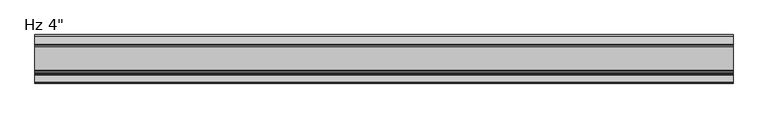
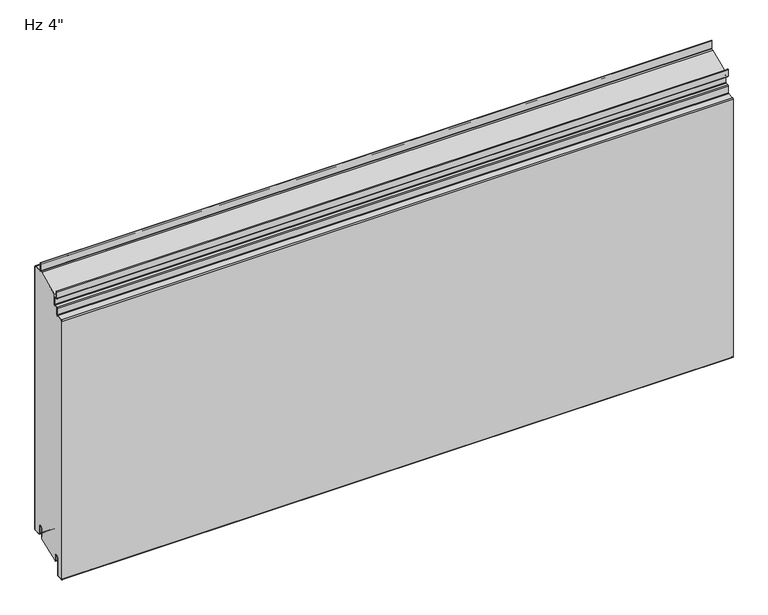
"""IFC4 building model written with IfcOpenShell, lengths in millimetres: plate geometry."""

from ifc_helpers import new_model, si_unit, point, frame, frame_2d, origin, place, context, project, spatial, polyline, circle_curve, ellipse_curve, trimmed, segment, composite_curve, outline, extrude, source, transform, mapped, element, save
from ifc_brep_helpers import plane_surface, cylinder_surface, revolved_surface, extruded_surface, advanced_brep


def plate_cdfc6812(model_context):
    return source(origin(), model_context, "Body", "SolidModel", [
        extrude(outline(composite_curve([segment(trimmed(circle_curve(frame_2d((-21.43125, 19.05)), 4.96875), [point((-16.4625, 19.05))], [point((-26.4, 19.05))], True, "CARTESIAN"), True, "CONTINUOUS"), segment(polyline([(-26.4, 19.05), (-26.4, -3.1323422), (-74.6157227, -23.01875), (-76.2, -23.01875), (-76.2, -13.5080174), (-76.99375, -13.5080174), (-76.7875, -11.9205174)]), True, "CONTINUOUS"), segment(trimmed(circle_curve(frame_2d((-81.75625, -11.9205174)), 4.96875), [point((-76.7875, -11.9205174))], [point((-86.725, -11.9205174))], True, "CARTESIAN"), True, "CONTINUOUS"), segment(polyline([(-86.725, -11.9205174), (-86.725, -50.1038221)]), True, "CONTINUOUS"), segment(trimmed(circle_curve(frame_2d((-88.10625, -50.1038221)), 1.38125), [point((-86.725, -50.1038221))], [point((-88.033961, -51.4831791))], False, "CARTESIAN"), True, "CONTINUOUS"), segment(polyline([(-88.033961, -51.4831791), (-99.146461, -52.0655606)]), True, "CONTINUOUS"), segment(trimmed(circle_curve(frame_2d((-99.21875, -50.6862035)), 1.38125), [point((-99.146461, -52.0655606))], [point((-100.6, -50.6862035))], False, "CARTESIAN"), True, "CONTINUOUS"), segment(polyline([(-100.6, -50.6862035), (-100.6, 541.4447607)]), True, "CONTINUOUS"), segment(trimmed(circle_curve(frame_2d((-99.21875, 541.4447607)), 1.38125), [point((-100.6, 541.4447607))], [point((-99.291039, 542.8241177))], False, "CARTESIAN"), True, "CONTINUOUS"), segment(polyline([(-99.291039, 542.8241177), (-85.5895807, 543.5421807)]), True, "CONTINUOUS"), segment(trimmed(circle_curve(frame_2d((-85.725, 546.1261347)), 2.5875), [point((-85.5895807, 543.5421807))], [point((-83.1375, 546.1261347))], True, "CARTESIAN"), True, "CONTINUOUS"), segment(polyline([(-83.1375, 546.1261347), (-83.1375, 560.2824411)]), True, "CONTINUOUS"), segment(trimmed(circle_curve(frame_2d((-81.75625, 560.2824411)), 1.38125), [point((-83.1375, 560.2824411))], [point((-81.828539, 561.6617981))], False, "CARTESIAN"), True, "CONTINUOUS"), segment(polyline([(-81.828539, 561.6617981), (-76.0645807, 561.9638744)]), True, "CONTINUOUS"), segment(trimmed(circle_curve(frame_2d((-76.2, 564.5478283)), 2.5875), [point((-76.0645807, 561.9638744))], [point((-73.6125, 564.5478283))], True, "CARTESIAN"), True, "CONTINUOUS"), segment(polyline([(-73.6125, 564.5478283), (-73.6125, 586.9892934), (-24.9057308, 607.80625), (-2.38125, 607.80625)]), True, "CONTINUOUS"), segment(trimmed(circle_curve(frame_2d((-2.38125, 606.425)), 1.38125), [point((-2.38125, 607.80625))], [point((-1.0, 606.425))], False, "CARTESIAN"), True, "CONTINUOUS"), segment(polyline([(-1.0, 606.425), (-1.0, 3.175)]), True, "CONTINUOUS"), segment(trimmed(circle_curve(frame_2d((-2.38125, 3.175)), 1.38125), [point((-1.0, 3.175))], [point((-2.38125, 1.79375))], False, "CARTESIAN"), True, "CONTINUOUS"), segment(polyline([(-2.38125, 1.79375), (-15.08125, 1.79375)]), True, "CONTINUOUS"), segment(trimmed(circle_curve(frame_2d((-15.08125, 3.175)), 1.38125), [point((-15.08125, 1.79375))], [point((-16.4625, 3.175))], False, "CARTESIAN"), True, "CONTINUOUS"), segment(polyline([(-16.4625, 3.175), (-16.4625, 19.05)]), True, "CONTINUOUS")], self_intersect=False)), frame((-730.0, 0.0, 0.0), z_axis=(1.0, 0.0, 0.0), x_axis=(0.0, 1.0, 0.0)), (0.0, 0.0, 1.0), 1460.0),
        extrude(outline(composite_curve([segment(polyline([(-25.4, 0.79375), (-26.4, 0.79375), (-26.4, 19.05)]), True, "CONTINUOUS"), segment(trimmed(circle_curve(frame_2d((-21.43125, 19.05)), 4.96875), [point((-26.4, 19.05))], [point((-16.4625, 19.05))], False, "CARTESIAN"), True, "CONTINUOUS"), segment(polyline([(-16.4625, 19.05), (-16.4625, 3.175)]), True, "CONTINUOUS"), segment(trimmed(circle_curve(frame_2d((-15.08125, 3.175)), 1.38125), [point((-16.4625, 3.175))], [point((-15.08125, 1.79375))], True, "CARTESIAN"), True, "CONTINUOUS"), segment(polyline([(-15.08125, 1.79375), (-2.38125, 1.79375)]), True, "CONTINUOUS"), segment(trimmed(circle_curve(frame_2d((-2.38125, 3.175)), 1.38125), [point((-2.38125, 1.79375))], [point((-1.0, 3.175))], True, "CARTESIAN"), True, "CONTINUOUS"), segment(polyline([(-1.0, 3.175), (-1.0, 606.425)]), True, "CONTINUOUS"), segment(trimmed(circle_curve(frame_2d((-2.38125, 606.425)), 1.38125), [point((-1.0, 606.425))], [point((-2.38125, 607.80625))], True, "CARTESIAN"), True, "CONTINUOUS"), segment(polyline([(-2.38125, 607.80625), (-19.446875, 607.80625)]), True, "CONTINUOUS"), segment(trimmed(circle_curve(frame_2d((-19.446875, 610.39375)), 2.5875), [point((-19.446875, 607.80625))], [point((-22.034375, 610.39375))], False, "CARTESIAN"), True, "CONTINUOUS"), segment(polyline([(-22.034375, 610.39375), (-22.034375, 627.85625), (-21.034375, 627.85625), (-21.034375, 610.39375)]), True, "CONTINUOUS"), segment(trimmed(circle_curve(frame_2d((-19.446875, 610.39375)), 1.5875), [point((-21.034375, 610.39375))], [point((-19.446875, 608.80625))], True, "CARTESIAN"), True, "CONTINUOUS"), segment(polyline([(-19.446875, 608.80625), (-2.38125, 608.80625)]), True, "CONTINUOUS"), segment(trimmed(circle_curve(frame_2d((-2.38125, 606.425)), 2.38125), [point((-2.38125, 608.80625))], [point((0.0, 606.425))], False, "CARTESIAN"), True, "CONTINUOUS"), segment(polyline([(0.0, 606.425), (0.0, 3.175)]), True, "CONTINUOUS"), segment(trimmed(circle_curve(frame_2d((-2.38125, 3.175)), 2.38125), [point((0.0, 3.175))], [point((-2.38125, 0.79375))], False, "CARTESIAN"), True, "CONTINUOUS"), segment(polyline([(-2.38125, 0.79375), (-15.08125, 0.79375)]), True, "CONTINUOUS"), segment(trimmed(circle_curve(frame_2d((-15.08125, 3.175)), 2.38125), [point((-15.08125, 0.79375))], [point((-17.4625, 3.175))], False, "CARTESIAN"), True, "CONTINUOUS"), segment(polyline([(-17.4625, 3.175), (-17.4625, 19.05)]), True, "CONTINUOUS"), segment(trimmed(circle_curve(frame_2d((-21.43125, 19.05)), 3.96875), [point((-17.4625, 19.05))], [point((-25.4, 19.05))], True, "CARTESIAN"), True, "CONTINUOUS"), segment(polyline([(-25.4, 19.05), (-25.4, 0.79375)]), True, "CONTINUOUS")], self_intersect=False)), frame((-730.0, 0.0, 0.0), z_axis=(1.0, 0.0, 0.0), x_axis=(0.0, 1.0, 0.0)), (0.0, 0.0, 1.0), 1460.0),
        advanced_brep(
        [(-730.0, -76.2, -23.2314549), (-730.0, -77.7875, -23.2314549), (-730.0, -77.7875, -11.9205174), (-730.0, -85.725, -11.9205174), (-730.0, -85.725, -50.1038221), (-730.0, -87.981625, -52.4818086), (-730.0, -99.094125, -53.0641901), (-730.0, -101.6, -50.6862035), (-730.0, -101.6, 541.4447607), (-730.0, -99.343375, 543.8227473), (-730.0, -85.6419167, 544.5408103), (-730.0, -84.1375, 546.1261347), (-730.0, -84.1375, 560.2824411), (-730.0, -81.880875, 562.6604276), (-730.0, -76.1169167, 562.9625039), (-730.0, -74.6125, 564.5478283), (-730.0, -74.6125, 579.4232326), (-730.0, -76.2, 581.0107326), (-730.0, -80.3671875, 581.0107326), (-730.0, -82.7484375, 583.3919826), (-730.0, -82.7484375, 597.8836032), (-730.0, -80.9546875, 597.8836032), (-730.0, -80.9546875, 588.1544826), (-730.0, -81.7484375, 588.1544826), (-730.0, -81.7484375, 583.3919826), (-730.0, -80.3671875, 582.0107326), (-730.0, -76.2, 582.0107326), (-730.0, -73.6125, 579.4232326), (-730.0, -73.6125, 564.5478283), (-730.0, -76.0645807, 561.9638744), (-730.0, -81.828539, 561.6617981), (-730.0, -83.1375, 560.2824411), (-730.0, -83.1375, 546.1261347), (-730.0, -85.5895807, 543.5421807), (-730.0, -99.291039, 542.8241177), (-730.0, -100.6, 541.4447607), (-730.0, -100.6, -50.6862035), (-730.0, -99.146461, -52.0655606), (-730.0, -88.033961, -51.4831791), (-730.0, -86.725, -50.1038221), (-730.0, -86.725, -11.9205174), (-730.0, -76.7875, -11.9205174), (-730.0, -76.99375, -13.5080174), (-730.0, -76.2, -13.5080174), (730.0, -76.2, -23.2314549), (730.0, -76.2, -13.5080174), (730.0, -76.99375, -13.5080174), (730.0, -76.7875, -11.9205174), (730.0, -86.725, -11.9205174), (730.0, -86.725, -50.1038221), (730.0, -88.033961, -51.4831791), (730.0, -99.146461, -52.0655606), (730.0, -100.6, -50.6862035), (730.0, -100.6, 541.4447607), (730.0, -99.291039, 542.8241177), (730.0, -85.5895807, 543.5421807), (730.0, -83.1375, 546.1261347), (730.0, -83.1375, 560.2824411), (730.0, -81.828539, 561.6617981), (730.0, -76.0645807, 561.9638744), (730.0, -73.6125, 564.5478283), (730.0, -73.6125, 579.4232326), (730.0, -76.2, 582.0107326), (730.0, -80.3671875, 582.0107326), (730.0, -81.7484375, 583.3919826), (730.0, -81.7484375, 588.1544826), (730.0, -80.9546875, 588.1544826), (730.0, -80.9546875, 597.8836032), (730.0, -82.7484375, 597.8836032), (730.0, -82.7484375, 583.3919826), (730.0, -80.3671875, 581.0107326), (730.0, -76.2, 581.0107326), (730.0, -74.6125, 579.4232326), (730.0, -74.6125, 564.5478283), (730.0, -76.1169167, 562.9625039), (730.0, -81.880875, 562.6604276), (730.0, -84.1375, 560.2824411), (730.0, -84.1375, 546.1261347), (730.0, -85.6419167, 544.5408103), (730.0, -99.343375, 543.8227473), (730.0, -101.6, 541.4447607), (730.0, -101.6, -50.6862035), (730.0, -99.094125, -53.0641901), (730.0, -87.981625, -52.4818086), (730.0, -85.725, -50.1038221), (730.0, -85.725, -11.9205174), (730.0, -77.7875, -11.9205174), (730.0, -77.7875, -23.2314549)],
        [
            (0, 1, circle_curve(frame((-730.0, -76.99375, -23.2314549), z_axis=(-1.0, 0.0, 0.0), x_axis=(0.0, 0.0, 1.0)), 0.79375)),
            (1, 2),
            (2, 3, circle_curve(frame((-730.0, -81.75625, -11.9205174), z_axis=(1.0, 0.0, 0.0), x_axis=(0.0, 0.0, 1.0)), 3.96875)),
            (3, 4),
            (4, 5, circle_curve(frame((-730.0, -88.10625, -50.1038221), z_axis=(-1.0, 0.0, 0.0), x_axis=(0.0, 0.0, 1.0)), 2.38125)),
            (5, 6),
            (6, 7, circle_curve(frame((-730.0, -99.21875, -50.6862035), z_axis=(-1.0, 0.0, 0.0), x_axis=(0.0, 0.0, 1.0)), 2.38125)),
            (7, 8),
            (8, 9, circle_curve(frame((-730.0, -99.21875, 541.4447607), z_axis=(-1.0, 0.0, 0.0), x_axis=(0.0, 0.0, 1.0)), 2.38125)),
            (9, 10),
            (10, 11, circle_curve(frame((-730.0, -85.725, 546.1261347), z_axis=(1.0, 0.0, 0.0), x_axis=(0.0, 0.0, 1.0)), 1.5875)),
            (11, 12),
            (12, 13, circle_curve(frame((-730.0, -81.75625, 560.2824411), z_axis=(-1.0, 0.0, 0.0), x_axis=(0.0, 0.0, 1.0)), 2.38125)),
            (13, 14),
            (14, 15, circle_curve(frame((-730.0, -76.2, 564.5478283), z_axis=(1.0, 0.0, 0.0), x_axis=(0.0, 0.0, 1.0)), 1.5875)),
            (15, 16),
            (16, 17, circle_curve(frame((-730.0, -76.2, 579.4232326), z_axis=(1.0, 0.0, 0.0), x_axis=(0.0, 0.0, 1.0)), 1.5875)),
            (17, 18),
            (18, 19, circle_curve(frame((-730.0, -80.3671875, 583.3919826), z_axis=(-1.0, 0.0, 0.0), x_axis=(0.0, 0.0, 1.0)), 2.38125)),
            (19, 20),
            (20, 21, ellipse_curve(frame((-730.0, -81.8515625, 597.8836032), z_axis=(-1.0, 0.0, 0.0), x_axis=(0.0, 1.0, 0.0)), 0.896875, 0.7852275)),
            (21, 22),
            (22, 23),
            (23, 24),
            (24, 25, circle_curve(frame((-730.0, -80.3671875, 583.3919826), z_axis=(1.0, 0.0, 0.0), x_axis=(0.0, 0.0, 1.0)), 1.38125)),
            (25, 26),
            (26, 27, circle_curve(frame((-730.0, -76.2, 579.4232326), z_axis=(-1.0, 0.0, 0.0), x_axis=(0.0, 0.0, 1.0)), 2.5875)),
            (27, 28),
            (28, 29, circle_curve(frame((-730.0, -76.2, 564.5478283), z_axis=(-1.0, 0.0, 0.0), x_axis=(0.0, 0.0, 1.0)), 2.5875)),
            (29, 30),
            (30, 31, circle_curve(frame((-730.0, -81.75625, 560.2824411), z_axis=(1.0, 0.0, 0.0), x_axis=(0.0, 0.0, 1.0)), 1.38125)),
            (31, 32),
            (32, 33, circle_curve(frame((-730.0, -85.725, 546.1261347), z_axis=(-1.0, 0.0, 0.0), x_axis=(0.0, 0.0, 1.0)), 2.5875)),
            (33, 34),
            (34, 35, circle_curve(frame((-730.0, -99.21875, 541.4447607), z_axis=(1.0, 0.0, 0.0), x_axis=(0.0, 0.0, 1.0)), 1.38125)),
            (35, 36),
            (36, 37, circle_curve(frame((-730.0, -99.21875, -50.6862035), z_axis=(1.0, 0.0, 0.0), x_axis=(0.0, 0.0, 1.0)), 1.38125)),
            (37, 38),
            (38, 39, circle_curve(frame((-730.0, -88.10625, -50.1038221), z_axis=(1.0, 0.0, 0.0), x_axis=(0.0, 0.0, 1.0)), 1.38125)),
            (39, 40),
            (40, 41, circle_curve(frame((-730.0, -81.75625, -11.9205174), z_axis=(-1.0, 0.0, 0.0), x_axis=(0.0, 0.0, 1.0)), 4.96875)),
            (41, 42),
            (42, 43),
            (43, 0),
            (44, 45),
            (45, 46),
            (46, 47),
            (47, 48, circle_curve(frame((730.0, -81.75625, -11.9205174), z_axis=(1.0, 0.0, 0.0), x_axis=(0.0, 0.0, 1.0)), 4.96875)),
            (48, 49),
            (49, 50, circle_curve(frame((730.0, -88.10625, -50.1038221), z_axis=(-1.0, 0.0, 0.0), x_axis=(0.0, 0.0, 1.0)), 1.38125)),
            (50, 51),
            (51, 52, circle_curve(frame((730.0, -99.21875, -50.6862035), z_axis=(-1.0, 0.0, 0.0), x_axis=(0.0, 0.0, 1.0)), 1.38125)),
            (52, 53),
            (53, 54, circle_curve(frame((730.0, -99.21875, 541.4447607), z_axis=(-1.0, 0.0, 0.0), x_axis=(0.0, 0.0, 1.0)), 1.38125)),
            (54, 55),
            (55, 56, circle_curve(frame((730.0, -85.725, 546.1261347), z_axis=(1.0, 0.0, 0.0), x_axis=(0.0, 0.0, 1.0)), 2.5875)),
            (56, 57),
            (57, 58, circle_curve(frame((730.0, -81.75625, 560.2824411), z_axis=(-1.0, 0.0, 0.0), x_axis=(0.0, 0.0, 1.0)), 1.38125)),
            (58, 59),
            (59, 60, circle_curve(frame((730.0, -76.2, 564.5478283), z_axis=(1.0, 0.0, 0.0), x_axis=(0.0, 0.0, 1.0)), 2.5875)),
            (60, 61),
            (61, 62, circle_curve(frame((730.0, -76.2, 579.4232326), z_axis=(1.0, 0.0, 0.0), x_axis=(0.0, 0.0, 1.0)), 2.5875)),
            (62, 63),
            (63, 64, circle_curve(frame((730.0, -80.3671875, 583.3919826), z_axis=(-1.0, 0.0, 0.0), x_axis=(0.0, 0.0, 1.0)), 1.38125)),
            (64, 65),
            (65, 66),
            (66, 67),
            (67, 68, ellipse_curve(frame((730.0, -81.8515625, 597.8836032), z_axis=(1.0, 0.0, 0.0), x_axis=(0.0, 1.0, 0.0)), 0.896875, 0.7852275)),
            (68, 69),
            (69, 70, circle_curve(frame((730.0, -80.3671875, 583.3919826), z_axis=(1.0, 0.0, 0.0), x_axis=(0.0, 0.0, 1.0)), 2.38125)),
            (70, 71),
            (71, 72, circle_curve(frame((730.0, -76.2, 579.4232326), z_axis=(-1.0, 0.0, 0.0), x_axis=(0.0, 0.0, 1.0)), 1.5875)),
            (72, 73),
            (73, 74, circle_curve(frame((730.0, -76.2, 564.5478283), z_axis=(-1.0, 0.0, 0.0), x_axis=(0.0, 0.0, 1.0)), 1.5875)),
            (74, 75),
            (75, 76, circle_curve(frame((730.0, -81.75625, 560.2824411), z_axis=(1.0, 0.0, 0.0), x_axis=(0.0, 0.0, 1.0)), 2.38125)),
            (76, 77),
            (77, 78, circle_curve(frame((730.0, -85.725, 546.1261347), z_axis=(-1.0, 0.0, 0.0), x_axis=(0.0, 0.0, 1.0)), 1.5875)),
            (78, 79),
            (79, 80, circle_curve(frame((730.0, -99.21875, 541.4447607), z_axis=(1.0, 0.0, 0.0), x_axis=(0.0, 0.0, 1.0)), 2.38125)),
            (80, 81),
            (81, 82, circle_curve(frame((730.0, -99.21875, -50.6862035), z_axis=(1.0, 0.0, 0.0), x_axis=(0.0, 0.0, 1.0)), 2.38125)),
            (82, 83),
            (83, 84, circle_curve(frame((730.0, -88.10625, -50.1038221), z_axis=(1.0, 0.0, 0.0), x_axis=(0.0, 0.0, 1.0)), 2.38125)),
            (84, 85),
            (85, 86, circle_curve(frame((730.0, -81.75625, -11.9205174), z_axis=(-1.0, 0.0, 0.0), x_axis=(0.0, 0.0, 1.0)), 3.96875)),
            (86, 87),
            (87, 44, circle_curve(frame((730.0, -76.99375, -23.2314549), z_axis=(1.0, 0.0, 0.0), x_axis=(0.0, 0.0, 1.0)), 0.79375)),
            (43, 45),
            (44, 0),
            (36, 52),
            (51, 37),
            (50, 38),
            (49, 39),
            (48, 40),
            (47, 41),
            (42, 46),
            (22, 66),
            (65, 23),
            (21, 67),
            (20, 68),
            (34, 54),
            (53, 35),
            (32, 56),
            (55, 33),
            (30, 58),
            (57, 31),
            (28, 60),
            (59, 29),
            (24, 64),
            (63, 25),
            (26, 62),
            (61, 27),
            (19, 69),
            (17, 71),
            (70, 18),
            (15, 73),
            (72, 16),
            (13, 75),
            (74, 14),
            (11, 77),
            (76, 12),
            (9, 79),
            (78, 10),
            (7, 81),
            (80, 8),
            (5, 83),
            (82, 6),
            (3, 85),
            (84, 4),
            (1, 87),
            (86, 2),
        ],
        [
            plane_surface(frame((-730.0, -101.6, 304.8), z_axis=(-1.0, 0.0, 0.0), x_axis=(0.0, -1.0, 0.0))),
            plane_surface(frame((730.0, -101.6, 304.8), z_axis=(1.0, 0.0, 0.0), x_axis=(0.0, -1.0, 0.0))),
            plane_surface(frame((-730.0, -76.2, -23.2314549), z_axis=(0.0, 1.0, 0.0), x_axis=(1.0, 0.0, 0.0))),
            revolved_surface(polyline([(730.0, -99.21875, -49.304953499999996), (-730.0, -99.21875, -49.304953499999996)]), (-730.0, -99.21875, -50.6862035), (1.0, 0.0, 0.0)),
            plane_surface(frame((-730.0, -88.033961, -51.4831791), z_axis=(0.0, -0.052335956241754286, 0.9986295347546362), x_axis=(1.0, 0.0, 0.0))),
            revolved_surface(polyline([(730.0, -88.10625, -48.7225721), (-730.0, -88.10625, -48.7225721)]), (-730.0, -88.10625, -50.1038221), (1.0, 0.0, 0.0)),
            plane_surface(frame((-730.0, -86.725, -11.9205174), z_axis=(0.0, -1.0, 0.0), x_axis=(1.0, 0.0, 0.0))),
            cylinder_surface(frame((-730.0, -81.75625, -11.9205174), z_axis=(-1.0, 0.0, 0.0), x_axis=(0.0, 0.0, 1.0)), 4.96875),
            plane_surface(frame((-730.0, -76.2, -13.5080174), z_axis=(0.0, 0.0, 1.0), x_axis=(1.0, 0.0, 0.0))),
            plane_surface(frame((-730.0, -76.99375, -13.5080174), z_axis=(0.0, 0.9916655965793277, -0.12883844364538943), x_axis=(1.0, 0.0, 0.0))),
            plane_surface(frame((-730.0, -81.7484375, 588.1544826), z_axis=(0.0, 0.0, -1.0), x_axis=(1.0, 0.0, 0.0))),
            plane_surface(frame((-730.0, -80.9546875, 588.1544826), z_axis=(0.0, 1.0, 0.0), x_axis=(1.0, 0.0, 0.0))),
            extruded_surface(trimmed(ellipse_curve(frame((-730.0, -81.8515625, 597.8836032), z_axis=(1.0, 0.0, 0.0), x_axis=(0.0, 1.0, 0.0)), 0.896875, 0.7852275), [point((-730.0, -80.9546875, 597.8836032))], [point((-730.0, -82.7484375, 597.8836032))], True, "CARTESIAN"), (1460.0, 0.0, 0.0), 1460.0),
            revolved_surface(polyline([(730.0, -99.21875, 542.8260107), (-730.0, -99.21875, 542.8260107)]), (-730.0, -99.21875, 541.4447607), (1.0, 0.0, 0.0)),
            cylinder_surface(frame((-730.0, -85.725, 546.1261347), z_axis=(-1.0, 0.0, 0.0), x_axis=(0.0, 0.0, 1.0)), 2.5875),
            plane_surface(frame((-730.0, -99.291039, 542.8241177), z_axis=(0.0, 0.052335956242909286, -0.9986295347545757), x_axis=(1.0, 0.0, 0.0))),
            plane_surface(frame((-730.0, -100.6, -50.6862035), z_axis=(0.0, 1.0, 0.0), x_axis=(1.0, 0.0, 0.0))),
            revolved_surface(polyline([(730.0, -81.75625, 561.6636911), (-730.0, -81.75625, 561.6636911)]), (-730.0, -81.75625, 560.2824411), (1.0, 0.0, 0.0)),
            cylinder_surface(frame((-730.0, -76.2, 564.5478283), z_axis=(-1.0, 0.0, 0.0), x_axis=(0.0, 0.0, 1.0)), 2.5875),
            plane_surface(frame((-730.0, -81.828539, 561.6617981), z_axis=(0.0, 0.0523359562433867, -0.9986295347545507), x_axis=(1.0, 0.0, 0.0))),
            plane_surface(frame((-730.0, -83.1375, 546.1261347), z_axis=(0.0, 1.0, 0.0), x_axis=(1.0, 0.0, 0.0))),
            revolved_surface(polyline([(730.0, -80.3671875, 584.7732326), (-730.0, -80.3671875, 584.7732326)]), (-730.0, -80.3671875, 583.3919826), (1.0, 0.0, 0.0)),
            cylinder_surface(frame((-730.0, -76.2, 579.4232326), z_axis=(-1.0, 0.0, 0.0), x_axis=(0.0, 0.0, 1.0)), 2.5875),
            plane_surface(frame((-730.0, -76.2, 582.0107326), z_axis=(0.0, 0.0, 1.0), x_axis=(1.0, 0.0, 0.0))),
            plane_surface(frame((-730.0, -81.7484375, 583.3919826), z_axis=(0.0, 1.0, 0.0), x_axis=(1.0, 0.0, 0.0))),
            plane_surface(frame((-730.0, -82.7484375, 597.8836032), z_axis=(0.0, -1.0, 0.0), x_axis=(1.0, 0.0, 0.0))),
            plane_surface(frame((-730.0, -80.3671875, 581.0107326), z_axis=(0.0, 0.0, -1.0), x_axis=(1.0, 0.0, 0.0))),
            cylinder_surface(frame((-730.0, -80.3671875, 583.3919826), z_axis=(-1.0, 0.0, 0.0), x_axis=(0.0, 0.0, 1.0)), 2.38125),
            plane_surface(frame((-730.0, -73.6125, 564.5478283), z_axis=(0.0, 1.0, 0.0), x_axis=(1.0, 0.0, 0.0))),
            plane_surface(frame((-730.0, -74.6125, 579.4232326), z_axis=(0.0, -1.0, 0.0), x_axis=(1.0, 0.0, 0.0))),
            plane_surface(frame((-730.0, -76.1169167, 562.9625039), z_axis=(0.0, -0.052335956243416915, 0.9986295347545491), x_axis=(1.0, 0.0, 0.0))),
            revolved_surface(polyline([(730.0, -76.2, 566.1353283), (-730.0, -76.2, 566.1353283)]), (-730.0, -76.2, 564.5478283), (1.0, 0.0, 0.0)),
            revolved_surface(polyline([(730.0, -76.2, 581.0107326), (-730.0, -76.2, 581.0107326)]), (-730.0, -76.2, 579.4232326), (1.0, 0.0, 0.0)),
            plane_surface(frame((-730.0, -84.1375, 560.2824411), z_axis=(0.0, -1.0, 0.0), x_axis=(1.0, 0.0, 0.0))),
            plane_surface(frame((-730.0, -85.6419167, 544.5408103), z_axis=(0.0, -0.052335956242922, 0.998629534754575), x_axis=(1.0, 0.0, 0.0))),
            revolved_surface(polyline([(730.0, -85.725, 547.7136347), (-730.0, -85.725, 547.7136347)]), (-730.0, -85.725, 546.1261347), (1.0, 0.0, 0.0)),
            cylinder_surface(frame((-730.0, -81.75625, 560.2824411), z_axis=(-1.0, 0.0, 0.0), x_axis=(0.0, 0.0, 1.0)), 2.38125),
            plane_surface(frame((-730.0, -101.6, 541.4447607), z_axis=(0.0, -1.0, 0.0), x_axis=(1.0, 0.0, 0.0))),
            plane_surface(frame((-730.0, -99.094125, -53.0641901), z_axis=(0.0, 0.052335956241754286, -0.9986295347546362), x_axis=(1.0, 0.0, 0.0))),
            cylinder_surface(frame((-730.0, -99.21875, -50.6862035), z_axis=(-1.0, 0.0, 0.0), x_axis=(0.0, 0.0, 1.0)), 2.38125),
            cylinder_surface(frame((-730.0, -99.21875, 541.4447607), z_axis=(-1.0, 0.0, 0.0), x_axis=(0.0, 0.0, 1.0)), 2.38125),
            plane_surface(frame((-730.0, -85.725, -50.1038221), z_axis=(0.0, 1.0, 0.0), x_axis=(1.0, 0.0, 0.0))),
            plane_surface(frame((-730.0, -77.7875, -11.9205174), z_axis=(0.0, -1.0, 0.0), x_axis=(1.0, 0.0, 0.0))),
            revolved_surface(polyline([(730.0, -81.75625, -7.9517674), (-730.0, -81.75625, -7.9517674)]), (-730.0, -81.75625, -11.9205174), (1.0, 0.0, 0.0)),
            cylinder_surface(frame((-730.0, -88.10625, -50.1038221), z_axis=(-1.0, 0.0, 0.0), x_axis=(0.0, 0.0, 1.0)), 2.38125),
            cylinder_surface(frame((-730.0, -76.99375, -23.2314549), z_axis=(-1.0, 0.0, 0.0), x_axis=(0.0, 0.0, 1.0)), 0.79375),
        ],
        [
            (0, [[1, 2, 3, 4, 5, 6, 7, 8, 9, 10, 11, 12, 13, 14, 15, 16, 17, 18, 19, 20, 21, 22, 23, 24, 25, 26, 27, 28, 29, 30, 31, 32, 33, 34, 35, 36, 37, 38, 39, 40, 41, 42, 43, 44]]),
            (1, [[45, 46, 47, 48, 49, 50, 51, 52, 53, 54, 55, 56, 57, 58, 59, 60, 61, 62, 63, 64, 65, 66, 67, 68, 69, 70, 71, 72, 73, 74, 75, 76, 77, 78, 79, 80, 81, 82, 83, 84, 85, 86, 87, 88]]),
            (2, [[89, -45, 90, -44]]),
            (3, [[91, -52, 92, -37]]),
            (4, [[-92, -51, 93, -38]]),
            (5, [[-93, -50, 94, -39]]),
            (6, [[-94, -49, 95, -40]]),
            (7, [[-95, -48, 96, -41]]),
            (8, [[97, -46, -89, -43]]),
            (9, [[-96, -47, -97, -42]]),
            (10, [[98, -66, 99, -23]]),
            (11, [[100, -67, -98, -22]]),
            (12, [[101, -68, -100, -21]]),
            (13, [[102, -54, 103, -35]]),
            (14, [[104, -56, 105, -33]]),
            (15, [[-105, -55, -102, -34]]),
            (16, [[-103, -53, -91, -36]]),
            (17, [[106, -58, 107, -31]]),
            (18, [[108, -60, 109, -29]]),
            (19, [[-109, -59, -106, -30]]),
            (20, [[-107, -57, -104, -32]]),
            (21, [[110, -64, 111, -25]]),
            (22, [[112, -62, 113, -27]]),
            (23, [[-111, -63, -112, -26]]),
            (24, [[-99, -65, -110, -24]]),
            (25, [[114, -69, -101, -20]]),
            (26, [[115, -71, 116, -18]]),
            (27, [[-116, -70, -114, -19]]),
            (28, [[-113, -61, -108, -28]]),
            (29, [[117, -73, 118, -16]]),
            (30, [[119, -75, 120, -14]]),
            (31, [[-120, -74, -117, -15]]),
            (32, [[-118, -72, -115, -17]]),
            (33, [[121, -77, 122, -12]]),
            (34, [[123, -79, 124, -10]]),
            (35, [[-124, -78, -121, -11]]),
            (36, [[-122, -76, -119, -13]]),
            (37, [[125, -81, 126, -8]]),
            (38, [[127, -83, 128, -6]]),
            (39, [[-128, -82, -125, -7]]),
            (40, [[-126, -80, -123, -9]]),
            (41, [[129, -85, 130, -4]]),
            (42, [[131, -87, 132, -2]]),
            (43, [[-132, -86, -129, -3]]),
            (44, [[-130, -84, -127, -5]]),
            (45, [[-90, -88, -131, -1]]),
        ],
    ),
    ])


if __name__ == "__main__":
    model = new_model("IFC4")
    model_context = context("Model", 3, world=origin())
    ifc_project = project(units=[si_unit("LENGTHUNIT", "METRE", prefix="MILLI")], contexts=[model_context])
    site = spatial("IfcSite", under=ifc_project)
    building = spatial("IfcBuilding", under=site)
    placement = place(None, origin())
    plate_shape = plate_cdfc6812(model_context)
    element("IfcPlate", 1, ObjectType="KIP-24-DWHR-R19-CP-Hz-F : Hz 4\"", at=placement, inside=building, context=model_context, shape_type="MappedRepresentation", body=[
        mapped(plate_shape, transform((0.0, 0.0, 0.0), x_axis=(1.0, 0.0, 0.0), y_axis=(0.0, 1.0, 0.0), z_axis=(0.0, 0.0, 1.0))),
    ])
    save(model, "model.ifc")
